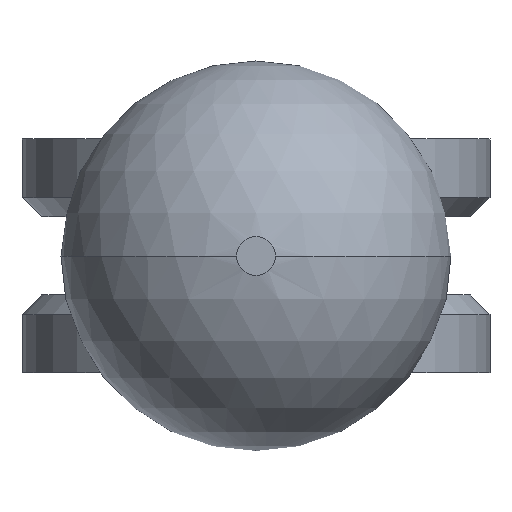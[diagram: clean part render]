
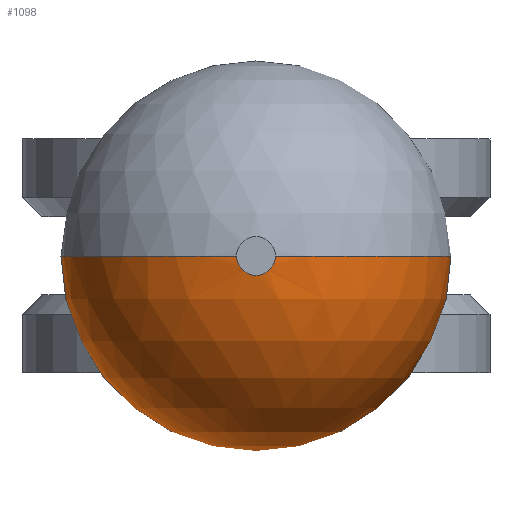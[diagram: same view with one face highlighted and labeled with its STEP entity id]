
A CAD part, left-side view. The second image highlights one B-rep face of the part: STEP entity #1098.
In plain terms, the highlighted spherical face has radius 2.5 mm.
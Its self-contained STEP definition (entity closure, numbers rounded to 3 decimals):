
#13 = DIRECTION ( 'NONE',  ( -1., 0., 0. ) ) ;
#17 = EDGE_LOOP ( 'NONE', ( #465, #246, #600, #215, #860, #78, #184, #982 ) ) ;
#28 = CARTESIAN_POINT ( 'NONE',  ( 0., 0., 0. ) ) ;
#78 = ORIENTED_EDGE ( 'NONE', *, *, #224, .F. ) ;
#90 = AXIS2_PLACEMENT_3D ( 'NONE', #802, #1016, #511 ) ;
#105 = CARTESIAN_POINT ( 'NONE',  ( 2.487, 0., 0. ) ) ;
#107 = CIRCLE ( 'NONE', #1268, 2.5 ) ;
#124 = DIRECTION ( 'NONE',  ( 1., 0., 0. ) ) ;
#127 = DIRECTION ( 'NONE',  ( 0., 0., -1. ) ) ;
#136 = CIRCLE ( 'NONE', #1072, 0.25 ) ;
#184 = ORIENTED_EDGE ( 'NONE', *, *, #974, .T. ) ;
#209 = DIRECTION ( 'NONE',  ( 0., 0., -1. ) ) ;
#215 = ORIENTED_EDGE ( 'NONE', *, *, #951, .T. ) ;
#221 = DIRECTION ( 'NONE',  ( 0., 0., 1. ) ) ;
#224 = EDGE_CURVE ( 'NONE', #370, #728, #656, .T. ) ;
#227 = EDGE_CURVE ( 'NONE', #675, #728, #107, .T. ) ;
#231 = SPHERICAL_SURFACE ( 'NONE', #1210, 2.5 ) ;
#236 = CIRCLE ( 'NONE', #318, 2.5 ) ;
#246 = ORIENTED_EDGE ( 'NONE', *, *, #715, .T. ) ;
#251 = VERTEX_POINT ( 'NONE', #543 ) ;
#305 = DIRECTION ( 'NONE',  ( 1., 0., 0. ) ) ;
#318 = AXIS2_PLACEMENT_3D ( 'NONE', #737, #840, #1035 ) ;
#328 = DIRECTION ( 'NONE',  ( 0., 0., -1. ) ) ;
#329 = CARTESIAN_POINT ( 'NONE',  ( -2.487, 0., -0.25 ) ) ;
#370 = VERTEX_POINT ( 'NONE', #408 ) ;
#372 = CARTESIAN_POINT ( 'NONE',  ( 2.487, 0., -0.25 ) ) ;
#391 = DIRECTION ( 'NONE',  ( 0., 0., 1. ) ) ;
#408 = CARTESIAN_POINT ( 'NONE',  ( 2.487, 0.25, 0. ) ) ;
#440 = CARTESIAN_POINT ( 'NONE',  ( 0., 0., 0. ) ) ;
#465 = ORIENTED_EDGE ( 'NONE', *, *, #1051, .F. ) ;
#484 = CIRCLE ( 'NONE', #609, 2.5 ) ;
#511 = DIRECTION ( 'NONE',  ( 0., 0., 1. ) ) ;
#526 = CARTESIAN_POINT ( 'NONE',  ( 0., 0., 0. ) ) ;
#531 = DIRECTION ( 'NONE',  ( 1., 0., 0. ) ) ;
#543 = CARTESIAN_POINT ( 'NONE',  ( -2.487, -0.25, 0. ) ) ;
#548 = AXIS2_PLACEMENT_3D ( 'NONE', #1184, #1008, #209 ) ;
#600 = ORIENTED_EDGE ( 'NONE', *, *, #1237, .T. ) ;
#609 = AXIS2_PLACEMENT_3D ( 'NONE', #28, #391, #305 ) ;
#630 = CARTESIAN_POINT ( 'NONE',  ( 0., 0., 0. ) ) ;
#640 = CIRCLE ( 'NONE', #90, 0.25 ) ;
#645 = VERTEX_POINT ( 'NONE', #994 ) ;
#656 = CIRCLE ( 'NONE', #763, 2.5 ) ;
#675 = VERTEX_POINT ( 'NONE', #743 ) ;
#714 = CARTESIAN_POINT ( 'NONE',  ( -2.487, 0., 0. ) ) ;
#715 = EDGE_CURVE ( 'NONE', #1144, #251, #236, .T. ) ;
#728 = VERTEX_POINT ( 'NONE', #1022 ) ;
#729 = CARTESIAN_POINT ( 'NONE',  ( 0., -2.5, 0. ) ) ;
#737 = CARTESIAN_POINT ( 'NONE',  ( 0., 0., 0. ) ) ;
#743 = CARTESIAN_POINT ( 'NONE',  ( -2.487, 0.25, 0. ) ) ;
#763 = AXIS2_PLACEMENT_3D ( 'NONE', #526, #221, #124 ) ;
#780 = VERTEX_POINT ( 'NONE', #329 ) ;
#802 = CARTESIAN_POINT ( 'NONE',  ( 2.487, 0., 0. ) ) ;
#812 = DIRECTION ( 'NONE',  ( -1., 0., 0. ) ) ;
#823 = DIRECTION ( 'NONE',  ( 0., 0., -1. ) ) ;
#834 = VERTEX_POINT ( 'NONE', #372 ) ;
#840 = DIRECTION ( 'NONE',  ( 0., 0., -1. ) ) ;
#860 = ORIENTED_EDGE ( 'NONE', *, *, #227, .T. ) ;
#894 = DIRECTION ( 'NONE',  ( 0., 0., 1. ) ) ;
#896 = CIRCLE ( 'NONE', #985, 0.25 ) ;
#920 = DIRECTION ( 'NONE',  ( 1., 0., 0. ) ) ;
#951 = EDGE_CURVE ( 'NONE', #780, #675, #1109, .T. ) ;
#974 = EDGE_CURVE ( 'NONE', #370, #834, #640, .T. ) ;
#982 = ORIENTED_EDGE ( 'NONE', *, *, #1074, .T. ) ;
#985 = AXIS2_PLACEMENT_3D ( 'NONE', #714, #531, #823 ) ;
#994 = CARTESIAN_POINT ( 'NONE',  ( 2.487, -0.25, 0. ) ) ;
#1008 = DIRECTION ( 'NONE',  ( 1., 0., 0. ) ) ;
#1016 = DIRECTION ( 'NONE',  ( -1., 0., 0. ) ) ;
#1022 = CARTESIAN_POINT ( 'NONE',  ( 0., 2.5, 0. ) ) ;
#1035 = DIRECTION ( 'NONE',  ( -1., 0., 0. ) ) ;
#1038 = FACE_OUTER_BOUND ( 'NONE', #17, .T. ) ;
#1051 = EDGE_CURVE ( 'NONE', #1144, #645, #484, .T. ) ;
#1072 = AXIS2_PLACEMENT_3D ( 'NONE', #105, #13, #894 ) ;
#1074 = EDGE_CURVE ( 'NONE', #834, #645, #136, .T. ) ;
#1098 = ADVANCED_FACE ( 'NONE', ( #1038 ), #231, .T. ) ;
#1109 = CIRCLE ( 'NONE', #548, 0.25 ) ;
#1144 = VERTEX_POINT ( 'NONE', #729 ) ;
#1184 = CARTESIAN_POINT ( 'NONE',  ( -2.487, 0., 0. ) ) ;
#1210 = AXIS2_PLACEMENT_3D ( 'NONE', #440, #127, #920 ) ;
#1237 = EDGE_CURVE ( 'NONE', #251, #780, #896, .T. ) ;
#1268 = AXIS2_PLACEMENT_3D ( 'NONE', #630, #328, #812 ) ;
